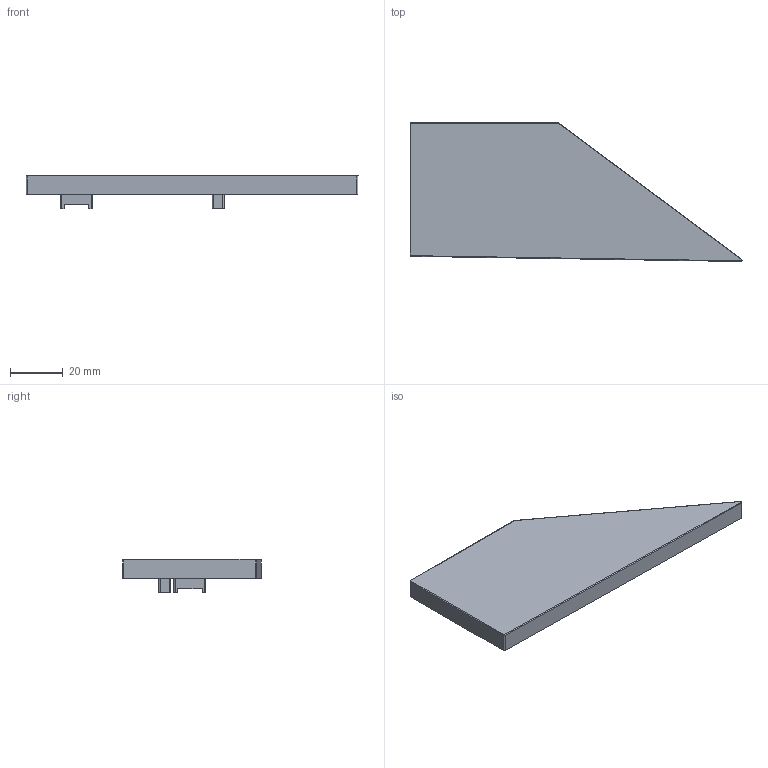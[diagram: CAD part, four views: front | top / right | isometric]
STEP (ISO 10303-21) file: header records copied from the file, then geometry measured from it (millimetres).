
FILE_DESCRIPTION (( 'STEP AP203' ), '1' );
FILE_NAME ('MCP-000411-00 - END CAP, MACHINED, LEFT, L30 KNIFE EDGE REV A.STEP', '2022-11-22T18:01:25', ( '' ), ( '' ), 'SwSTEP 2.0', 'SolidWorks 2020', '' );
FILE_SCHEMA (( 'CONFIG_CONTROL_DESIGN' ));
Length unit declared in the file: millimetre
Products named in the file (1): MCP-000411-00 - END CAP, MACHINED, LEFT, L30 KNIFE EDGE REV A
Bounding box: 126.05 x 52.77 x 12.7 mm (x, y, z)
Volume: 14575.3 mm3; surface area: 14050.9 mm2
Topology: 2 solids, 2 shells, 72 faces, 183 edges, 116 vertices
Faces by surface type: plane 35, cylinder 28, torus 5, cone 4
Entity records: 2221 total; most frequent: DIRECTION 388, CARTESIAN_POINT 368, ORIENTED_EDGE 358, EDGE_CURVE 179, AXIS2_PLACEMENT_3D 136, VECTOR 116, VERTEX_POINT 116, LINE 116
